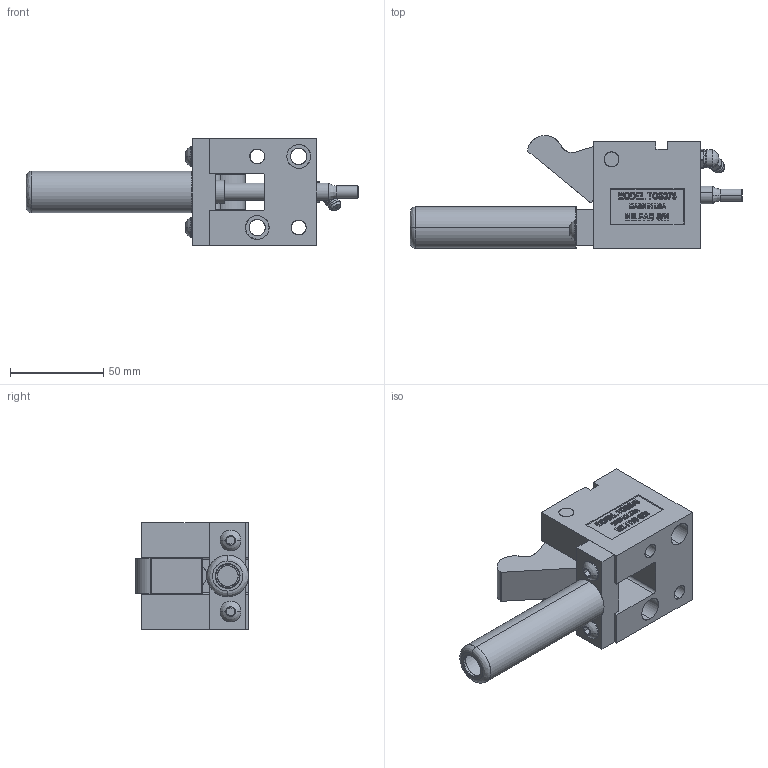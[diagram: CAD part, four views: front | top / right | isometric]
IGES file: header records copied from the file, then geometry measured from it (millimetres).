
Start section: SolidWorks IGES file using analytic representation for surfaces
Global section: file name: Y:\JIM'S INCH CAM UNITS\TOS37545\OPEN\TOS37545-O.IGS; native system: SolidWorks 2006 by SolidWorks Corporation; preprocessor: SolidWorks 2006 by SolidWorks Corporation; author: Jim; date: 090210.172324; units: inch
Bounding box: 177.8 x 60.44 x 57.15 mm (x, y, z)
Surface area: 57820.2 mm2 (no closed solid volume)
Topology: 0 solids, 0 shells, 587 faces, 7173 edges, 7169 vertices
Faces by surface type: bspline 471, revolution 116
